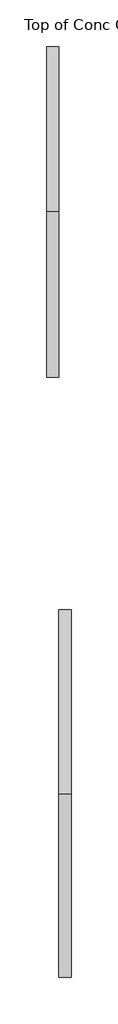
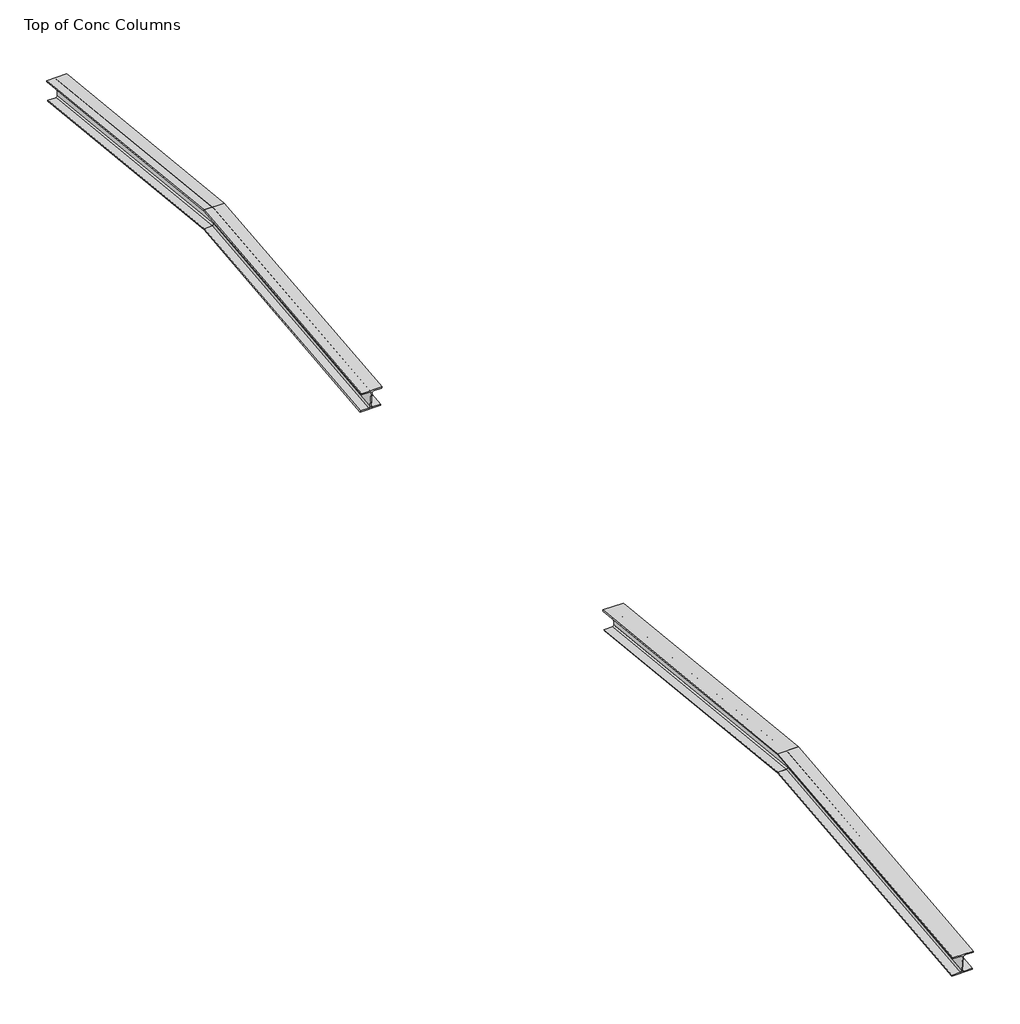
# One storey: 4 beams.
"""IFC4 building model written with IfcOpenShell, lengths in millimetres."""

from ifc_helpers import new_model, si_unit, frame, origin, place, context, project, spatial, polyline, circle_curve, ellipse_curve, element, save
from ifc_brep_helpers import plane_surface, revolved_surface, advanced_brep

model = new_model("IFC4")

# Units and contexts
model_context = context("Model", 3, world=origin())
ifc_project = project(units=[si_unit("LENGTHUNIT", "METRE", prefix="MILLI")], contexts=[model_context])

# Site, building, storey
site = spatial("IfcSite", under=ifc_project)
building = spatial("IfcBuilding", under=site)
storey = spatial("IfcBuildingStorey", under=building, Name="Top of Conc Columns", Elevation=33782.0)

# Beams
placement = place(None, origin())
element("IfcBeam", 1, ObjectType="W-Wide Flange : W12X79", at=placement, inside=storey, context=model_context, shape_type="AdvancedBrep", body=[
    advanced_brep(
    [(-21755.4154607, 20969.2190095, 33178.8039345), (-21630.3204607, 20969.2190095, 33178.8039345), (-21607.7144607, 20971.5967656, 33201.2845375), (-21607.7144607, 20996.0422355, 33432.4053438), (-21630.3204607, 20998.4199915, 33454.8859468), (-21755.4154607, 20998.4199915, 33454.8859468), (-21755.4154607, 21000.383644, 33473.4513887), (-21448.0754607, 21000.383644, 33473.4513887), (-21448.0754607, 20998.4199915, 33454.8859468), (-21573.1704607, 20998.4199915, 33454.8859468), (-21595.7764607, 20996.0422355, 33432.4053438), (-21595.7764607, 20971.5967656, 33201.2845375), (-21573.1704607, 20969.2190095, 33178.8039345), (-21448.0754607, 20969.2190095, 33178.8039345), (-21448.0754607, 20967.255357, 33160.2384927), (-21755.4154607, 20967.255357, 33160.2384927), (-21755.4154607, 16882.4695005, 33611.0562864), (-21630.3204607, 16882.4695005, 33611.0562864), (-21607.7144607, 16882.4695005, 33633.7883829), (-21607.7144607, 16882.4695005, 33867.4947677), (-21630.3204607, 16882.4695005, 33890.2268642), (-21755.4154607, 16882.4695005, 33890.2268642), (-21755.4154607, 16882.4695005, 33909.0), (-21448.0754607, 16882.4695005, 33909.0), (-21448.0754607, 16882.4695005, 33890.2268642), (-21573.1704607, 16882.4695005, 33890.2268642), (-21595.7764607, 16882.4695005, 33867.4947677), (-21595.7764607, 16882.4695005, 33633.7883829), (-21573.1704607, 16882.4695005, 33611.0562864), (-21448.0754607, 16882.4695005, 33611.0562864), (-21448.0754607, 16882.4695005, 33592.2831506), (-21755.4154607, 16882.4695005, 33592.2831506)],
    [
        (0, 1),
        (1, 2, circle_curve(frame((-21630.3204607, 20971.5967656, 33201.2845375), z_axis=(0.0, -0.9944529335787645, 0.10518252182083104), x_axis=(1.0, 0.0, 0.0)), 22.606)),
        (2, 3),
        (3, 4, circle_curve(frame((-21630.3204607, 20996.0422355, 33432.4053438), z_axis=(0.0, -0.9944529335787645, 0.10518252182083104), x_axis=(1.0, 0.0, 0.0)), 22.606)),
        (4, 5),
        (5, 6),
        (6, 7),
        (7, 8),
        (8, 9),
        (9, 10, circle_curve(frame((-21573.1704607, 20996.0422355, 33432.4053438), z_axis=(0.0, -0.9944529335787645, 0.10518252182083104), x_axis=(1.0, 0.0, 0.0)), 22.606)),
        (10, 11),
        (11, 12, circle_curve(frame((-21573.1704607, 20971.5967656, 33201.2845375), z_axis=(0.0, -0.9944529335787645, 0.10518252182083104), x_axis=(1.0, 0.0, 0.0)), 22.606)),
        (12, 13),
        (13, 14),
        (14, 15),
        (15, 0),
        (0, 16),
        (16, 17),
        (17, 1),
        (17, 18, ellipse_curve(frame((-21630.3204607, 16882.4695005, 33633.7883829), z_axis=(0.0, -1.0, 0.0), x_axis=(0.0, 0.0, 0.9999999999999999)), 22.7320964, 22.606)),
        (18, 2),
        (18, 19),
        (19, 3),
        (19, 20, ellipse_curve(frame((-21630.3204607, 16882.4695005, 33867.4947677), z_axis=(0.0, -1.0, 0.0), x_axis=(0.0, 0.0, 0.9999999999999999)), 22.7320964, 22.606)),
        (20, 4),
        (20, 21),
        (21, 5),
        (21, 22),
        (22, 6),
        (22, 23),
        (23, 7),
        (23, 24),
        (24, 8),
        (24, 25),
        (25, 9),
        (25, 26, ellipse_curve(frame((-21573.1704607, 16882.4695005, 33867.4947677), z_axis=(0.0, -1.0, 0.0), x_axis=(0.0, 0.0, 0.9999999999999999)), 22.7320964, 22.606)),
        (26, 10),
        (26, 27),
        (27, 11),
        (27, 28, ellipse_curve(frame((-21573.1704607, 16882.4695005, 33633.7883829), z_axis=(0.0, -1.0, 0.0), x_axis=(0.0, 0.0, 0.9999999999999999)), 22.7320964, 22.606)),
        (28, 12),
        (28, 29),
        (29, 13),
        (29, 30),
        (30, 14),
        (30, 31),
        (31, 15),
        (31, 16),
    ],
    [
        plane_surface(frame((-21601.7454607, 20983.8195005, 33316.8449407), z_axis=(0.0, 0.9944529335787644, -0.10518252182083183), x_axis=(0.0, 0.10518252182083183, 0.9944529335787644))),
        plane_surface(frame((-21755.4154607, 20969.2190095, 33178.8039345), z_axis=(0.0, 0.10518252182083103, 0.9944529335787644), x_axis=(0.0, -0.9944529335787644, 0.10518252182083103))),
        revolved_surface(polyline([(-21607.7144607, 16880.091744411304, 33634.03987627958), (-21607.7144607, 20971.5967656, 33201.2845375)]), (-21630.3204607, 20971.5967656, 33201.2845375), (0.0, -0.9944529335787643, 0.10518252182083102)),
        plane_surface(frame((-21607.7144607, 20971.5967656, 33201.2845375), z_axis=(-1.0, 0.0, 0.0), x_axis=(0.0, -0.9944529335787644, 0.10518252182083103))),
        revolved_surface(polyline([(-21607.7144607, 16880.09174440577, 33867.74626112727), (-21607.7144607, 20996.0422355, 33432.4053438)]), (-21630.3204607, 20996.0422355, 33432.4053438), (0.0, -0.9944529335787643, 0.10518252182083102)),
        plane_surface(frame((-21630.3204607, 20998.4199915, 33454.8859468), z_axis=(0.0, -0.10518252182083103, -0.9944529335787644), x_axis=(0.0, -0.9944529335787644, 0.10518252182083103))),
        plane_surface(frame((-21755.4154607, 20998.4199915, 33454.8859468), z_axis=(-1.0, 0.0, 0.0), x_axis=(0.0, -0.9944529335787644, 0.10518252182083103))),
        plane_surface(frame((-21755.4154607, 21000.383644, 33473.4513887), z_axis=(0.0, 0.10518252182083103, 0.9944529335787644), x_axis=(0.0, -0.9944529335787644, 0.10518252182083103))),
        plane_surface(frame((-21448.0754607, 21000.383644, 33473.4513887), z_axis=(1.0, 0.0, 0.0), x_axis=(0.0, -0.9944529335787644, 0.10518252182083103))),
        plane_surface(frame((-21448.0754607, 20998.4199915, 33454.8859468), z_axis=(0.0, -0.10518252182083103, -0.9944529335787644), x_axis=(0.0, -0.9944529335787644, 0.10518252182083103))),
        revolved_surface(polyline([(-21550.5644607, 16880.09174440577, 33867.74626112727), (-21550.5644607, 20996.0422355, 33432.4053438)]), (-21573.1704607, 20996.0422355, 33432.4053438), (0.0, -0.9944529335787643, 0.10518252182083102)),
        plane_surface(frame((-21595.7764607, 20996.0422355, 33432.4053438), z_axis=(1.0, 0.0, 0.0), x_axis=(0.0, -0.9944529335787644, 0.10518252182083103))),
        revolved_surface(polyline([(-21550.5644607, 16880.091744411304, 33634.03987627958), (-21550.5644607, 20971.5967656, 33201.2845375)]), (-21573.1704607, 20971.5967656, 33201.2845375), (0.0, -0.9944529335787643, 0.10518252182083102)),
        plane_surface(frame((-21573.1704607, 20969.2190095, 33178.8039345), z_axis=(0.0, 0.10518252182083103, 0.9944529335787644), x_axis=(0.0, -0.9944529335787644, 0.10518252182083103))),
        plane_surface(frame((-21448.0754607, 20969.2190095, 33178.8039345), z_axis=(1.0, 0.0, 0.0), x_axis=(0.0, -0.9944529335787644, 0.10518252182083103))),
        plane_surface(frame((-21448.0754607, 20967.255357, 33160.2384927), z_axis=(0.0, -0.10518252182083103, -0.9944529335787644), x_axis=(0.0, -0.9944529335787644, 0.10518252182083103))),
        plane_surface(frame((-21755.4154607, 20967.255357, 33160.2384927), z_axis=(-1.0, 0.0, 0.0), x_axis=(0.0, -0.9944529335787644, 0.10518252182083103))),
        plane_surface(frame((-21601.7454607, 16882.4695005, 33592.2831506), z_axis=(0.0, -1.0, 0.0), x_axis=(0.0, 0.0, 1.0))),
    ],
    [
        (0, [[1, 2, 3, 4, 5, 6, 7, 8, 9, 10, 11, 12, 13, 14, 15, 16]]),
        (1, [[-1, 17, 18, 19]]),
        (2, [[-2, -19, 20, 21]]),
        (3, [[-3, -21, 22, 23]]),
        (4, [[-4, -23, 24, 25]]),
        (5, [[-5, -25, 26, 27]]),
        (6, [[-6, -27, 28, 29]]),
        (7, [[-7, -29, 30, 31]]),
        (8, [[-8, -31, 32, 33]]),
        (9, [[-9, -33, 34, 35]]),
        (10, [[-10, -35, 36, 37]]),
        (11, [[-11, -37, 38, 39]]),
        (12, [[-12, -39, 40, 41]]),
        (13, [[-13, -41, 42, 43]]),
        (14, [[-14, -43, 44, 45]]),
        (15, [[-15, -45, 46, 47]]),
        (16, [[-16, -47, 48, -17]]),
        (17, [[-48, -46, -44, -42, -40, -38, -36, -34, -32, -30, -28, -26, -24, -22, -20, -18]]),
    ],
),
])
element("IfcBeam", 2, ObjectType="W-Wide Flange : W12X79", at=placement, inside=storey, context=model_context, shape_type="AdvancedBrep", body=[
    advanced_brep(
    [(-21755.4154607, 12795.7199915, 33178.8039345), (-21755.4154607, 12797.683644, 33160.2384927), (-21448.0754607, 12797.683644, 33160.2384927), (-21448.0754607, 12795.7199915, 33178.8039345), (-21573.1704607, 12795.7199915, 33178.8039345), (-21595.7764607, 12793.3422355, 33201.2845375), (-21595.7764607, 12768.8967656, 33432.4053438), (-21573.1704607, 12766.5190095, 33454.8859468), (-21448.0754607, 12766.5190095, 33454.8859468), (-21448.0754607, 12764.555357, 33473.4513887), (-21755.4154607, 12764.555357, 33473.4513887), (-21755.4154607, 12766.5190095, 33454.8859468), (-21630.3204607, 12766.5190095, 33454.8859468), (-21607.7144607, 12768.8967656, 33432.4053438), (-21607.7144607, 12793.3422355, 33201.2845375), (-21630.3204607, 12795.7199915, 33178.8039345), (-21630.3204607, 16882.4695005, 33611.0562864), (-21755.4154607, 16882.4695005, 33611.0562864), (-21607.7144607, 16882.4695005, 33633.7883829), (-21607.7144607, 16882.4695005, 33867.4947677), (-21630.3204607, 16882.4695005, 33890.2268642), (-21755.4154607, 16882.4695005, 33890.2268642), (-21755.4154607, 16882.4695005, 33909.0), (-21448.0754607, 16882.4695005, 33909.0), (-21448.0754607, 16882.4695005, 33890.2268642), (-21573.1704607, 16882.4695005, 33890.2268642), (-21595.7764607, 16882.4695005, 33867.4947677), (-21595.7764607, 16882.4695005, 33633.7883829), (-21573.1704607, 16882.4695005, 33611.0562864), (-21448.0754607, 16882.4695005, 33611.0562864), (-21448.0754607, 16882.4695005, 33592.2831506), (-21755.4154607, 16882.4695005, 33592.2831506)],
    [
        (0, 1),
        (1, 2),
        (2, 3),
        (3, 4),
        (4, 5, circle_curve(frame((-21573.1704607, 12793.3422355, 33201.2845375), z_axis=(0.0, 0.9944529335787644, 0.10518252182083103), x_axis=(1.0, 0.0, 0.0)), 22.606)),
        (5, 6),
        (6, 7, circle_curve(frame((-21573.1704607, 12768.8967656, 33432.4053438), z_axis=(0.0, 0.9944529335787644, 0.10518252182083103), x_axis=(1.0, 0.0, 0.0)), 22.606)),
        (7, 8),
        (8, 9),
        (9, 10),
        (10, 11),
        (11, 12),
        (12, 13, circle_curve(frame((-21630.3204607, 12768.8967656, 33432.4053438), z_axis=(0.0, 0.9944529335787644, 0.10518252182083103), x_axis=(1.0, 0.0, 0.0)), 22.606)),
        (13, 14),
        (14, 15, circle_curve(frame((-21630.3204607, 12793.3422355, 33201.2845375), z_axis=(0.0, 0.9944529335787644, 0.10518252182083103), x_axis=(1.0, 0.0, 0.0)), 22.606)),
        (15, 0),
        (15, 16),
        (16, 17),
        (17, 0),
        (14, 18),
        (18, 16, ellipse_curve(frame((-21630.3204607, 16882.4695005, 33633.7883829), z_axis=(0.0, 1.0, 0.0), x_axis=(0.0, 0.0, 1.0)), 22.7320964, 22.606)),
        (13, 19),
        (19, 18),
        (12, 20),
        (20, 19, ellipse_curve(frame((-21630.3204607, 16882.4695005, 33867.4947677), z_axis=(0.0, 1.0, 0.0), x_axis=(0.0, 0.0, 1.0)), 22.7320964, 22.606)),
        (11, 21),
        (21, 20),
        (10, 22),
        (22, 21),
        (9, 23),
        (23, 22),
        (8, 24),
        (24, 23),
        (7, 25),
        (25, 24),
        (6, 26),
        (26, 25, ellipse_curve(frame((-21573.1704607, 16882.4695005, 33867.4947677), z_axis=(0.0, 1.0, 0.0), x_axis=(0.0, 0.0, 1.0)), 22.7320964, 22.606)),
        (5, 27),
        (27, 26),
        (4, 28),
        (28, 27, ellipse_curve(frame((-21573.1704607, 16882.4695005, 33633.7883829), z_axis=(0.0, 1.0, 0.0), x_axis=(0.0, 0.0, 1.0)), 22.7320964, 22.606)),
        (3, 29),
        (29, 28),
        (2, 30),
        (30, 29),
        (1, 31),
        (31, 30),
        (17, 31),
    ],
    [
        plane_surface(frame((-21601.7454607, 12781.1195005, 33316.8449407), z_axis=(0.0, -0.9944529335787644, -0.10518252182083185), x_axis=(0.0, -0.10518252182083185, 0.9944529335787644))),
        plane_surface(frame((-21755.4154607, 12795.7199915, 33178.8039345), z_axis=(0.0, -0.10518252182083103, 0.9944529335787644), x_axis=(0.0, 0.9944529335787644, 0.10518252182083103))),
        revolved_surface(polyline([(-21607.7144607, 16884.847256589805, 33634.03987626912), (-21607.7144607, 12793.342235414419, 33201.28453749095)]), (-21630.3204607, 12793.3422355, 33201.2845375), (0.0, 0.9944529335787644, 0.10518252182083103)),
        plane_surface(frame((-21607.7144607, 12793.3422355, 33201.2845375), z_axis=(-1.0, 0.0, 0.0), x_axis=(0.0, 0.9944529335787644, 0.10518252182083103))),
        revolved_surface(polyline([(-21607.7144607, 16884.847256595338, 33867.746261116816), (-21607.7144607, 12768.896765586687, 33432.405343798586)]), (-21630.3204607, 12768.8967656, 33432.4053438), (0.0, 0.9944529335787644, 0.10518252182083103)),
        plane_surface(frame((-21630.3204607, 12766.5190095, 33454.8859468), z_axis=(0.0, 0.10518252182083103, -0.9944529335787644), x_axis=(0.0, 0.9944529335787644, 0.10518252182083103))),
        plane_surface(frame((-21755.4154607, 12766.5190095, 33454.8859468), z_axis=(-1.0, 0.0, 0.0), x_axis=(0.0, 0.9944529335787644, 0.10518252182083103))),
        plane_surface(frame((-21755.4154607, 12764.555357, 33473.4513887), z_axis=(0.0, -0.10518252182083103, 0.9944529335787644), x_axis=(0.0, 0.9944529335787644, 0.10518252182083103))),
        plane_surface(frame((-21448.0754607, 12764.555357, 33473.4513887), z_axis=(1.0, 0.0, 0.0), x_axis=(0.0, 0.9944529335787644, 0.10518252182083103))),
        plane_surface(frame((-21448.0754607, 12766.5190095, 33454.8859468), z_axis=(0.0, 0.10518252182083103, -0.9944529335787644), x_axis=(0.0, 0.9944529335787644, 0.10518252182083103))),
        revolved_surface(polyline([(-21550.5644607, 16884.847256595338, 33867.746261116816), (-21550.5644607, 12768.896765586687, 33432.405343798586)]), (-21573.1704607, 12768.8967656, 33432.4053438), (0.0, 0.9944529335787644, 0.10518252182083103)),
        plane_surface(frame((-21595.7764607, 12768.8967656, 33432.4053438), z_axis=(1.0, 0.0, 0.0), x_axis=(0.0, 0.9944529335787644, 0.10518252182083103))),
        revolved_surface(polyline([(-21550.5644607, 16884.847256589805, 33634.03987626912), (-21550.5644607, 12793.342235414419, 33201.28453749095)]), (-21573.1704607, 12793.3422355, 33201.2845375), (0.0, 0.9944529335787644, 0.10518252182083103)),
        plane_surface(frame((-21573.1704607, 12795.7199915, 33178.8039345), z_axis=(0.0, -0.10518252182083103, 0.9944529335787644), x_axis=(0.0, 0.9944529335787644, 0.10518252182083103))),
        plane_surface(frame((-21448.0754607, 12795.7199915, 33178.8039345), z_axis=(1.0, 0.0, 0.0), x_axis=(0.0, 0.9944529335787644, 0.10518252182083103))),
        plane_surface(frame((-21448.0754607, 12797.683644, 33160.2384927), z_axis=(0.0, 0.10518252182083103, -0.9944529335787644), x_axis=(0.0, 0.9944529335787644, 0.10518252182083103))),
        plane_surface(frame((-21755.4154607, 12797.683644, 33160.2384927), z_axis=(-1.0, 0.0, 0.0), x_axis=(0.0, 0.9944529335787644, 0.10518252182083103))),
        plane_surface(frame((-21601.7454607, 16882.4695005, 33592.2831506), z_axis=(0.0, 1.0, 0.0), x_axis=(0.0, 0.0, -1.0))),
    ],
    [
        (0, [[1, 2, 3, 4, 5, 6, 7, 8, 9, 10, 11, 12, 13, 14, 15, 16]]),
        (1, [[17, 18, 19, -16]]),
        (2, [[20, 21, -17, -15]]),
        (3, [[22, 23, -20, -14]]),
        (4, [[24, 25, -22, -13]]),
        (5, [[26, 27, -24, -12]]),
        (6, [[28, 29, -26, -11]]),
        (7, [[30, 31, -28, -10]]),
        (8, [[32, 33, -30, -9]]),
        (9, [[34, 35, -32, -8]]),
        (10, [[36, 37, -34, -7]]),
        (11, [[38, 39, -36, -6]]),
        (12, [[40, 41, -38, -5]]),
        (13, [[42, 43, -40, -4]]),
        (14, [[44, 45, -42, -3]]),
        (15, [[46, 47, -44, -2]]),
        (16, [[-19, 48, -46, -1]]),
        (17, [[-18, -21, -23, -25, -27, -29, -31, -33, -35, -37, -39, -41, -43, -45, -47, -48]]),
    ],
),
])
element("IfcBeam", 3, ObjectType="W-Wide Flange : W12X79", at=placement, inside=storey, context=model_context, shape_type="AdvancedBrep", body=[
    advanced_brep(
    [(-21450.6154607, 6948.4190095, 33130.4462422), (-21325.5204607, 6948.4190095, 33130.4462422), (-21302.9144607, 6950.7967656, 33152.9268452), (-21302.9144607, 6975.2422355, 33384.0476515), (-21325.5204607, 6977.6199915, 33406.5282545), (-21450.6154607, 6977.6199915, 33406.5282545), (-21450.6154607, 6979.583644, 33425.0936964), (-21143.2754607, 6979.583644, 33425.0936964), (-21143.2754607, 6977.6199915, 33406.5282545), (-21268.3704607, 6977.6199915, 33406.5282545), (-21290.9764607, 6975.2422355, 33384.0476515), (-21290.9764607, 6950.7967656, 33152.9268452), (-21268.3704607, 6948.4190095, 33130.4462422), (-21143.2754607, 6948.4190095, 33130.4462422), (-21143.2754607, 6946.455357, 33111.8808004), (-21450.6154607, 6946.455357, 33111.8808004), (-21450.6154607, 2404.4695005, 33611.0562864), (-21325.5204607, 2404.4695005, 33611.0562864), (-21302.9144607, 2404.4695005, 33633.7883829), (-21302.9144607, 2404.4695005, 33867.4947677), (-21325.5204607, 2404.4695005, 33890.2268642), (-21450.6154607, 2404.4695005, 33890.2268642), (-21450.6154607, 2404.4695005, 33909.0), (-21143.2754607, 2404.4695005, 33909.0), (-21143.2754607, 2404.4695005, 33890.2268642), (-21268.3704607, 2404.4695005, 33890.2268642), (-21290.9764607, 2404.4695005, 33867.4947677), (-21290.9764607, 2404.4695005, 33633.7883829), (-21268.3704607, 2404.4695005, 33611.0562864), (-21143.2754607, 2404.4695005, 33611.0562864), (-21143.2754607, 2404.4695005, 33592.2831506), (-21450.6154607, 2404.4695005, 33592.2831506)],
    [
        (0, 1),
        (1, 2, circle_curve(frame((-21325.5204607, 6950.7967656, 33152.9268452), z_axis=(0.0, -0.9944529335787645, 0.10518252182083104), x_axis=(0.9999999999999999, 0.0, 0.0)), 22.606)),
        (2, 3),
        (3, 4, circle_curve(frame((-21325.5204607, 6975.2422355, 33384.0476515), z_axis=(0.0, -0.9944529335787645, 0.10518252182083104), x_axis=(0.0, 0.10518252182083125, 0.9944529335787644)), 22.606)),
        (4, 5),
        (5, 6),
        (6, 7),
        (7, 8),
        (8, 9),
        (9, 10, circle_curve(frame((-21268.3704607, 6975.2422355, 33384.0476515), z_axis=(0.0, -0.9944529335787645, 0.10518252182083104), x_axis=(-0.9999999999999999, 0.0, 0.0)), 22.606)),
        (10, 11),
        (11, 12, circle_curve(frame((-21268.3704607, 6950.7967656, 33152.9268452), z_axis=(0.0, -0.9944529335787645, 0.10518252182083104), x_axis=(0.0, -0.10518252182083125, -0.9944529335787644)), 22.606)),
        (12, 13),
        (13, 14),
        (14, 15),
        (15, 0),
        (0, 16),
        (16, 17),
        (17, 1),
        (17, 18, ellipse_curve(frame((-21325.5204607, 2404.4695005, 33633.7883829), z_axis=(0.0, -1.0, 0.0), x_axis=(0.0, 0.0, 0.9999999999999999)), 22.7320964, 22.606)),
        (18, 2),
        (18, 19),
        (19, 3),
        (19, 20, ellipse_curve(frame((-21325.5204607, 2404.4695005, 33867.4947677), z_axis=(0.0, -1.0, 0.0), x_axis=(0.0, 0.0, 0.9999999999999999)), 22.7320964, 22.606)),
        (20, 4),
        (20, 21),
        (21, 5),
        (21, 22),
        (22, 6),
        (22, 23),
        (23, 7),
        (23, 24),
        (24, 8),
        (24, 25),
        (25, 9),
        (25, 26, ellipse_curve(frame((-21268.3704607, 2404.4695005, 33867.4947677), z_axis=(0.0, -1.0, 0.0), x_axis=(0.0, 0.0, 0.9999999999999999)), 22.7320964, 22.606)),
        (26, 10),
        (26, 27),
        (27, 11),
        (27, 28, ellipse_curve(frame((-21268.3704607, 2404.4695005, 33633.7883829), z_axis=(0.0, -1.0, 0.0), x_axis=(0.0, 0.0, 0.9999999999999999)), 22.7320964, 22.606)),
        (28, 12),
        (28, 29),
        (29, 13),
        (29, 30),
        (30, 14),
        (30, 31),
        (31, 15),
        (31, 16),
    ],
    [
        plane_surface(frame((-21296.9454607, 6963.0195005, 33268.4872484), z_axis=(0.0, 0.9944529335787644, -0.10518252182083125), x_axis=(0.0, 0.10518252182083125, 0.9944529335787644))),
        plane_surface(frame((-21388.0679607, 6948.4190095, 33130.4462422), z_axis=(0.0, 0.10518252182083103, 0.9944529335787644), x_axis=(1.0, 0.0, 0.0))),
        revolved_surface(polyline([(-21302.9144607, 2402.091744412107, 33634.039876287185), (-21302.9144607, 6950.7967656, 33152.9268452)]), (-21325.5204607, 6950.7967656, 33152.9268452), (0.0, -0.9944529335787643, 0.10518252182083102)),
        plane_surface(frame((-21302.9144607, 6963.0195005, 33268.4872484), z_axis=(-1.0, 0.0, 0.0), x_axis=(0.0, 0.10518252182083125, 0.9944529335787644))),
        revolved_surface(polyline([(-21325.5204607, 2404.4695004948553, 33890.226864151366), (-21325.5204607, 6977.619991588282, 33406.52825451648)]), (-21325.5204607, 6975.2422355, 33384.0476515), (0.0, -0.9944529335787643, 0.10518252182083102)),
        plane_surface(frame((-21388.0679607, 6977.6199915, 33406.5282545), z_axis=(0.0, -0.10518252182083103, -0.9944529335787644), x_axis=(-1.0, 0.0, 0.0))),
        plane_surface(frame((-21450.6154607, 6978.6018178, 33415.8109754), z_axis=(-1.0, 0.0, 0.0), x_axis=(0.0, 0.10518252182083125, 0.9944529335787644))),
        plane_surface(frame((-21296.9454607, 6979.583644, 33425.0936964), z_axis=(0.0, 0.10518252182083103, 0.9944529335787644), x_axis=(1.0, 0.0, 0.0))),
        plane_surface(frame((-21143.2754607, 6978.6018178, 33415.8109754), z_axis=(1.0, 0.0, 0.0), x_axis=(0.0, -0.10518252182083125, -0.9944529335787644))),
        plane_surface(frame((-21205.8229607, 6977.6199915, 33406.5282545), z_axis=(0.0, -0.10518252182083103, -0.9944529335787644), x_axis=(-1.0, 0.0, 0.0))),
        revolved_surface(polyline([(-21290.9764607, 2402.0917444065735, 33867.74626113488), (-21290.9764607, 6975.2422355, 33384.0476515)]), (-21268.3704607, 6975.2422355, 33384.0476515), (0.0, -0.9944529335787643, 0.10518252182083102)),
        plane_surface(frame((-21290.9764607, 6963.0195005, 33268.4872484), z_axis=(1.0, 0.0, 0.0), x_axis=(0.0, -0.10518252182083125, -0.9944529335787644))),
        revolved_surface(polyline([(-21268.3704607, 2399.713988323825, 33611.5592732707), (-21268.3704607, 6948.419009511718, 33130.44624218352)]), (-21268.3704607, 6950.7967656, 33152.9268452), (0.0, -0.9944529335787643, 0.10518252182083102)),
        plane_surface(frame((-21205.8229607, 6948.4190095, 33130.4462422), z_axis=(0.0, 0.10518252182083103, 0.9944529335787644), x_axis=(1.0, 0.0, 0.0))),
        plane_surface(frame((-21143.2754607, 6947.4371832, 33121.1635213), z_axis=(1.0, 0.0, 0.0), x_axis=(0.0, -0.10518252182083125, -0.9944529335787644))),
        plane_surface(frame((-21296.9454607, 6946.455357, 33111.8808004), z_axis=(0.0, -0.10518252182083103, -0.9944529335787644), x_axis=(-1.0, 0.0, 0.0))),
        plane_surface(frame((-21450.6154607, 6947.4371832, 33121.1635213), z_axis=(-1.0, 0.0, 0.0), x_axis=(0.0, 0.10518252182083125, 0.9944529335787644))),
        plane_surface(frame((-21296.9454607, 2404.4695005, 33592.2831506), z_axis=(0.0, -1.0, 0.0), x_axis=(0.0, 0.0, 1.0))),
    ],
    [
        (0, [[1, 2, 3, 4, 5, 6, 7, 8, 9, 10, 11, 12, 13, 14, 15, 16]]),
        (1, [[-1, 17, 18, 19]]),
        (2, [[-2, -19, 20, 21]]),
        (3, [[-3, -21, 22, 23]]),
        (4, [[-4, -23, 24, 25]]),
        (5, [[-5, -25, 26, 27]]),
        (6, [[-6, -27, 28, 29]]),
        (7, [[-7, -29, 30, 31]]),
        (8, [[-8, -31, 32, 33]]),
        (9, [[-9, -33, 34, 35]]),
        (10, [[-10, -35, 36, 37]]),
        (11, [[-11, -37, 38, 39]]),
        (12, [[-12, -39, 40, 41]]),
        (13, [[-13, -41, 42, 43]]),
        (14, [[-14, -43, 44, 45]]),
        (15, [[-15, -45, 46, 47]]),
        (16, [[-16, -47, 48, -17]]),
        (17, [[-48, -46, -44, -42, -40, -38, -36, -34, -32, -30, -28, -26, -24, -22, -20, -18]]),
    ],
),
])
element("IfcBeam", 4, ObjectType="W-Wide Flange : W12X79", at=placement, inside=storey, context=model_context, shape_type="AdvancedBrep", body=[
    advanced_brep(
    [(-21450.6154607, -2139.4800085, 33130.4462422), (-21450.6154607, -2137.516356, 33111.8808004), (-21143.2754607, -2137.516356, 33111.8808004), (-21143.2754607, -2139.4800085, 33130.4462422), (-21268.3704607, -2139.4800085, 33130.4462422), (-21290.9764607, -2141.8577645, 33152.9268452), (-21290.9764607, -2166.3032344, 33384.0476515), (-21268.3704607, -2168.6809905, 33406.5282545), (-21143.2754607, -2168.6809905, 33406.5282545), (-21143.2754607, -2170.644643, 33425.0936964), (-21450.6154607, -2170.644643, 33425.0936964), (-21450.6154607, -2168.6809905, 33406.5282545), (-21325.5204607, -2168.6809905, 33406.5282545), (-21302.9144607, -2166.3032344, 33384.0476515), (-21302.9144607, -2141.8577645, 33152.9268452), (-21325.5204607, -2139.4800085, 33130.4462422), (-21325.5204607, 2404.4695005, 33611.0562864), (-21450.6154607, 2404.4695005, 33611.0562864), (-21302.9144607, 2404.4695005, 33633.7883829), (-21302.9144607, 2404.4695005, 33867.4947677), (-21325.5204607, 2404.4695005, 33890.2268642), (-21450.6154607, 2404.4695005, 33890.2268642), (-21450.6154607, 2404.4695005, 33909.0), (-21143.2754607, 2404.4695005, 33909.0), (-21143.2754607, 2404.4695005, 33890.2268642), (-21268.3704607, 2404.4695005, 33890.2268642), (-21290.9764607, 2404.4695005, 33867.4947677), (-21290.9764607, 2404.4695005, 33633.7883829), (-21268.3704607, 2404.4695005, 33611.0562864), (-21143.2754607, 2404.4695005, 33611.0562864), (-21143.2754607, 2404.4695005, 33592.2831506), (-21450.6154607, 2404.4695005, 33592.2831506)],
    [
        (0, 1),
        (1, 2),
        (2, 3),
        (3, 4),
        (4, 5, circle_curve(frame((-21268.3704607, -2141.8577645, 33152.9268452), z_axis=(0.0, 0.9944529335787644, 0.10518252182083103), x_axis=(0.0, 0.1051825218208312, -0.9944529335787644)), 22.606)),
        (5, 6),
        (6, 7, circle_curve(frame((-21268.3704607, -2166.3032344, 33384.0476515), z_axis=(0.0, 0.9944529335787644, 0.10518252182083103), x_axis=(-1.0, 0.0, 0.0)), 22.606)),
        (7, 8),
        (8, 9),
        (9, 10),
        (10, 11),
        (11, 12),
        (12, 13, circle_curve(frame((-21325.5204607, -2166.3032344, 33384.0476515), z_axis=(0.0, 0.9944529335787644, 0.10518252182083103), x_axis=(0.0, -0.1051825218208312, 0.9944529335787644)), 22.606)),
        (13, 14),
        (14, 15, circle_curve(frame((-21325.5204607, -2141.8577645, 33152.9268452), z_axis=(0.0, 0.9944529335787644, 0.10518252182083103), x_axis=(1.0, 0.0, 0.0)), 22.606)),
        (15, 0),
        (15, 16),
        (16, 17),
        (17, 0),
        (14, 18),
        (18, 16, ellipse_curve(frame((-21325.5204607, 2404.4695005, 33633.7883829), z_axis=(0.0, 1.0, 0.0), x_axis=(0.0, 0.0, 1.0)), 22.7320964, 22.606)),
        (13, 19),
        (19, 18),
        (12, 20),
        (20, 19, ellipse_curve(frame((-21325.5204607, 2404.4695005, 33867.4947677), z_axis=(0.0, 1.0, 0.0), x_axis=(0.0, 0.0, 1.0)), 22.7320964, 22.606)),
        (11, 21),
        (21, 20),
        (10, 22),
        (22, 21),
        (9, 23),
        (23, 22),
        (8, 24),
        (24, 23),
        (7, 25),
        (25, 24),
        (6, 26),
        (26, 25, ellipse_curve(frame((-21268.3704607, 2404.4695005, 33867.4947677), z_axis=(0.0, 1.0, 0.0), x_axis=(0.0, 0.0, 1.0)), 22.7320964, 22.606)),
        (5, 27),
        (27, 26),
        (4, 28),
        (28, 27, ellipse_curve(frame((-21268.3704607, 2404.4695005, 33633.7883829), z_axis=(0.0, 1.0, 0.0), x_axis=(0.0, 0.0, 1.0)), 22.7320964, 22.606)),
        (3, 29),
        (29, 28),
        (2, 30),
        (30, 29),
        (1, 31),
        (31, 30),
        (17, 31),
    ],
    [
        plane_surface(frame((-21296.9454607, -2154.0804995, 33268.4872484), z_axis=(0.0, -0.9944529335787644, -0.1051825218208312), x_axis=(0.0, -0.1051825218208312, 0.9944529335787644))),
        plane_surface(frame((-21388.0679607, -2139.4800085, 33130.4462422), z_axis=(0.0, -0.10518252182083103, 0.9944529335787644), x_axis=(1.0, 0.0, 0.0))),
        revolved_surface(polyline([(-21302.9144607, 2406.847256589, 33634.03987627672), (-21302.9144607, -2141.8577645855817, 33152.92684519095)]), (-21325.5204607, -2141.8577645, 33152.9268452), (0.0, 0.9944529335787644, 0.10518252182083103)),
        plane_surface(frame((-21302.9144607, -2154.0804995, 33268.4872484), z_axis=(-1.0, 0.0, 0.0), x_axis=(0.0, -0.1051825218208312, 0.9944529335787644))),
        revolved_surface(polyline([(-21325.5204607, 2404.469500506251, 33890.2268641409), (-21325.5204607, -2168.680990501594, 33406.52825451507)]), (-21325.5204607, -2166.3032344, 33384.0476515), (0.0, 0.9944529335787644, 0.10518252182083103)),
        plane_surface(frame((-21388.0679607, -2168.6809905, 33406.5282545), z_axis=(0.0, 0.10518252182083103, -0.9944529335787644), x_axis=(-1.0, 0.0, 0.0))),
        plane_surface(frame((-21450.6154607, -2169.6628168, 33415.8109754), z_axis=(-1.0, 0.0, 0.0), x_axis=(0.0, -0.1051825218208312, 0.9944529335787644))),
        plane_surface(frame((-21296.9454607, -2170.644643, 33425.0936964), z_axis=(0.0, -0.10518252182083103, 0.9944529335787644), x_axis=(1.0, 0.0, 0.0))),
        plane_surface(frame((-21143.2754607, -2169.6628168, 33415.8109754), z_axis=(1.0, 0.0, 0.0), x_axis=(0.0, 0.1051825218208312, -0.9944529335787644))),
        plane_surface(frame((-21205.8229607, -2168.6809905, 33406.5282545), z_axis=(0.0, 0.10518252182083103, -0.9944529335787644), x_axis=(-1.0, 0.0, 0.0))),
        revolved_surface(polyline([(-21290.9764607, 2406.8472565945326, 33867.74626112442), (-21290.9764607, -2166.303234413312, 33384.047651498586)]), (-21268.3704607, -2166.3032344, 33384.0476515), (0.0, 0.9944529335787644, 0.10518252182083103)),
        plane_surface(frame((-21290.9764607, -2154.0804995, 33268.4872484), z_axis=(1.0, 0.0, 0.0), x_axis=(0.0, 0.1051825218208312, -0.9944529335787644))),
        revolved_surface(polyline([(-21268.3704607, 2409.225012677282, 33611.55927326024), (-21268.3704607, -2139.4800084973, 33130.44624217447)]), (-21268.3704607, -2141.8577645, 33152.9268452), (0.0, 0.9944529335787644, 0.10518252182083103)),
        plane_surface(frame((-21205.8229607, -2139.4800085, 33130.4462422), z_axis=(0.0, -0.10518252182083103, 0.9944529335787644), x_axis=(1.0, 0.0, 0.0))),
        plane_surface(frame((-21143.2754607, -2138.4981822, 33121.1635213), z_axis=(1.0, 0.0, 0.0), x_axis=(0.0, 0.1051825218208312, -0.9944529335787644))),
        plane_surface(frame((-21296.9454607, -2137.516356, 33111.8808004), z_axis=(0.0, 0.10518252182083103, -0.9944529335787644), x_axis=(-1.0, 0.0, 0.0))),
        plane_surface(frame((-21450.6154607, -2138.4981822, 33121.1635213), z_axis=(-1.0, 0.0, 0.0), x_axis=(0.0, -0.1051825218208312, 0.9944529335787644))),
        plane_surface(frame((-21296.9454607, 2404.4695005, 33592.2831506), z_axis=(0.0, 1.0, 0.0), x_axis=(0.0, 0.0, -1.0))),
    ],
    [
        (0, [[1, 2, 3, 4, 5, 6, 7, 8, 9, 10, 11, 12, 13, 14, 15, 16]]),
        (1, [[17, 18, 19, -16]]),
        (2, [[20, 21, -17, -15]]),
        (3, [[22, 23, -20, -14]]),
        (4, [[24, 25, -22, -13]]),
        (5, [[26, 27, -24, -12]]),
        (6, [[28, 29, -26, -11]]),
        (7, [[30, 31, -28, -10]]),
        (8, [[32, 33, -30, -9]]),
        (9, [[34, 35, -32, -8]]),
        (10, [[36, 37, -34, -7]]),
        (11, [[38, 39, -36, -6]]),
        (12, [[40, 41, -38, -5]]),
        (13, [[42, 43, -40, -4]]),
        (14, [[44, 45, -42, -3]]),
        (15, [[46, 47, -44, -2]]),
        (16, [[-19, 48, -46, -1]]),
        (17, [[-18, -21, -23, -25, -27, -29, -31, -33, -35, -37, -39, -41, -43, -45, -47, -48]]),
    ],
),
])

save(model, "model.ifc")
